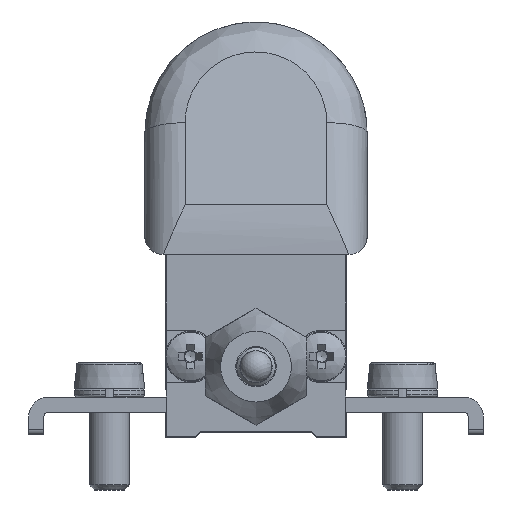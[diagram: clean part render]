
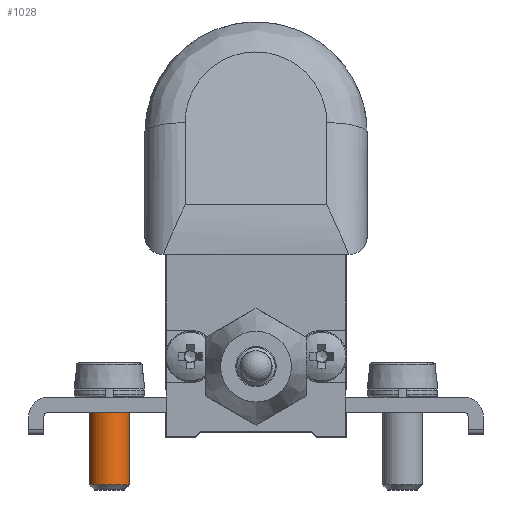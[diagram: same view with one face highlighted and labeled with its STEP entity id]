
A CAD part, front view. The second image highlights one B-rep face of the part: STEP entity #1028.
In plain terms, the highlighted cylindrical face has radius 2 mm (diameter 4 mm), a full revolution.
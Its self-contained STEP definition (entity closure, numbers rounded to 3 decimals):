
#1028 = ADVANCED_FACE( '', ( #2285, #2286 ), #2287, .T. );
#2285 = FACE_OUTER_BOUND( '', #4657, .T. );
#2286 = FACE_OUTER_BOUND( '', #4658, .T. );
#2287 = CYLINDRICAL_SURFACE( '', #4659, 2. );
#4657 = EDGE_LOOP( '', ( #7194 ) );
#4658 = EDGE_LOOP( '', ( #7195 ) );
#4659 = AXIS2_PLACEMENT_3D( '', #7196, #7197, #7198 );
#7194 = ORIENTED_EDGE( '', *, *, #10073, .T. );
#7195 = ORIENTED_EDGE( '', *, *, #10074, .T. );
#7196 = CARTESIAN_POINT( '', ( -14.5, 11., 32.8 ) );
#7197 = DIRECTION( '', ( 0., 0., -1. ) );
#7198 = DIRECTION( '', ( 1., 0., 0. ) );
#10073 = EDGE_CURVE( '', #13171, #13171, #13172, .F. );
#10074 = EDGE_CURVE( '', #13173, #13173, #13174, .T. );
#13171 = VERTEX_POINT( '', #18866 );
#13172 = CIRCLE( '', #18867, 2. );
#13173 = VERTEX_POINT( '', #18868 );
#13174 = CIRCLE( '', #18869, 2. );
#18866 = CARTESIAN_POINT( '', ( -16.5, 11., -4.7 ) );
#18867 = AXIS2_PLACEMENT_3D( '', #24188, #24189, #24190 );
#18868 = CARTESIAN_POINT( '', ( -12.5, 11., 3.8 ) );
#18869 = AXIS2_PLACEMENT_3D( '', #24191, #24192, #24193 );
#24188 = CARTESIAN_POINT( '', ( -14.5, 11., -4.7 ) );
#24189 = DIRECTION( '', ( 0., 0., -1. ) );
#24190 = DIRECTION( '', ( -1., 0., 0. ) );
#24191 = CARTESIAN_POINT( '', ( -14.5, 11., 3.8 ) );
#24192 = DIRECTION( '', ( 0., 0., -1. ) );
#24193 = DIRECTION( '', ( 1., 0., 0. ) );
